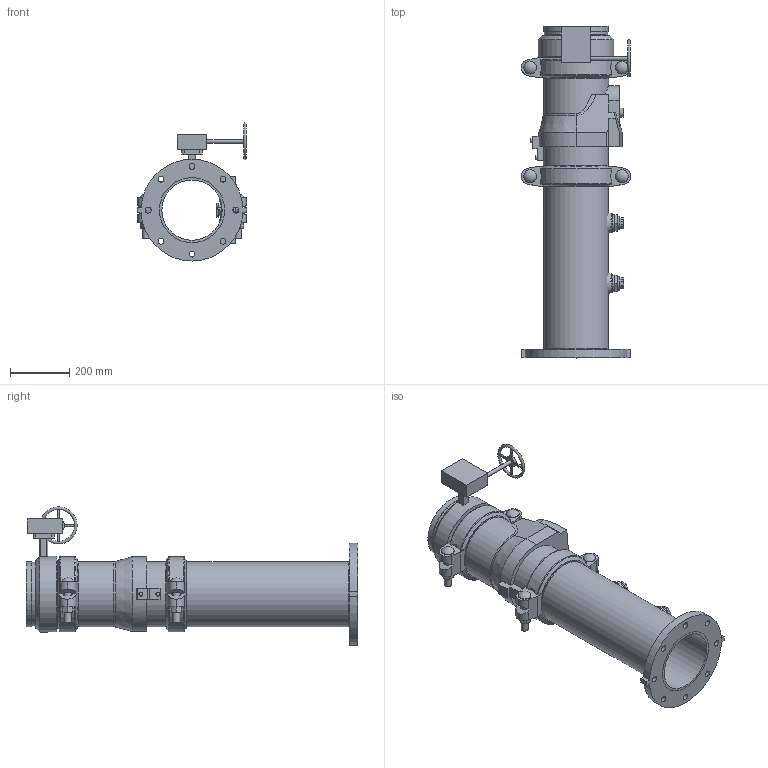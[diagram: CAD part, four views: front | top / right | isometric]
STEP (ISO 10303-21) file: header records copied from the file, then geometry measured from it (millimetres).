
FILE_DESCRIPTION(/* description */ ('VIC DVI PUMP DROP VERT S/390 (OGSxFLG)','CAx-IF Rec.Pracs.---Representation and Presentation of Product Manufacturing Information (PMI)---4.0---2014-10-13'),/* implementation_level */ '2;1');
FILE_NAME(/* name */ 'C:\Users\Vjadhav\AppData\Roaming\Autodesk\ApplicationPlugins\Back Up\Victaulic_IPS_Vertical DVI_PN10_Series 390 (OGSxFLG)\Victaulic_IPS_Vertical DVI_PN10_Series 390 (OGSxFLG)_08.0x08.0 (200x200).stp',/* time_stamp */ '2020-11-09T17:51:52+05:00',/* author */ ('Vjadhav'),/* organization */ ('Victaulic'),/* preprocessor_version */ 'ST-DEVELOPER v17.2',/* originating_system */ 'Autodesk Inventor 2019',/* authorisation */ '');
FILE_SCHEMA (('AP242_MANAGED_MODEL_BASED_3D_ENGINEERING_MIM_LF { 1 0 10303 442 1 1 4 }'));
Length unit declared in the file: inch
Products named in the file (7): 390-08.0x08.0; 741-08.0; Pipe-08.0x08.0; 177N-08.0; 716-08.0; 923-04.0x0.75; 761-08.0
Assembly tree (8 placements, depth 2):
  390-08.0x08.0
    741-08.0
    Pipe-08.0x08.0
    177N-08.0  x2
    716-08.0
    923-04.0x0.75  x2
    761-08.0
Bounding box: 368.3 x 1117.09 x 465.06 mm (x, y, z)
Volume: 14413192.4 mm3; surface area: 2314762 mm2
Topology: 8 solids, 9 shells, 472 faces, 1251 edges, 838 vertices
Faces by surface type: plane 288, cylinder 150, cone 14, torus 14, sphere 4, bspline 2
Full cylindrical faces by diameter (mm): 8.636 x4, 12.446 x1, 12.7 x3, 20.066 x8, 22.86 x1, 23.774 x4, 26.67 x2, 30.48 x1, 39.125 x1, 42.85 x4, 45.974 x4, 55.118 x1, 55.626 x2, 202.717 x2, 206.375 x2, 206.985 x1, 214.401 x6, 219.075 x16, 254 x1
Entity records: 11220 total; most frequent: CARTESIAN_POINT 2293, DIRECTION 1810, ORIENTED_EDGE 1704, EDGE_CURVE 852, AXIS2_PLACEMENT_3D 676, VERTEX_POINT 574, LINE 458, VECTOR 458
